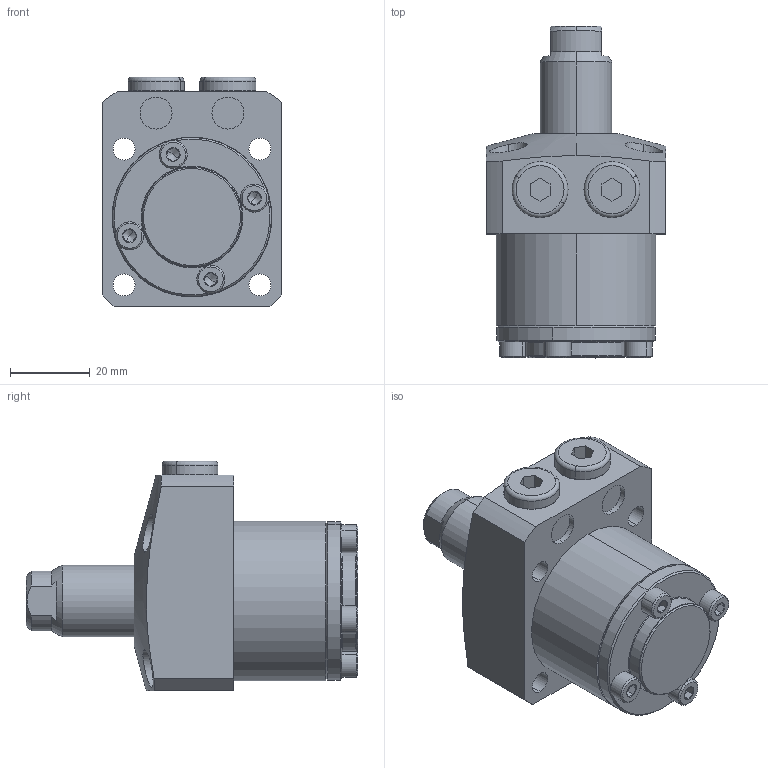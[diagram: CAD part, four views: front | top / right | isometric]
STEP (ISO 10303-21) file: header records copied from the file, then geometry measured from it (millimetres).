
FILE_DESCRIPTION (( 'STEP AP203' ), '1' );
FILE_NAME ('680400-CA-020.step', '2016-11-02T03:17:51', ( 'wxp' ), ( '' ), 'SwSTEP 2.0', 'SolidWorks 2011', '' );
FILE_SCHEMA (( 'CONFIG_CONTROL_DESIGN' ));
Length unit declared in the file: millimetre
Products named in the file (6): 680400-CA-020; 葩璃 68036-15-5^680400-CA-020; 葩璃 680400-15-4^680400-CA-020; 葩璃 680400-15-3^680400-CA-020; 葩璃 680400-20-2^680400-CA-020; 葩璃 680400-20-1^680400-CA-020
Assembly tree (9 placements, depth 2):
  680400-CA-020
    葩璃 680400-15-4^680400-CA-020  x4
    葩璃 680400-15-3^680400-CA-020
    葩璃 680400-20-2^680400-CA-020
    葩璃 680400-20-1^680400-CA-020
    葩璃 68036-15-5^680400-CA-020  x2
Bounding box: 45 x 83 x 57.5 mm (x, y, z)
Volume: 90331.1 mm3; surface area: 23468.3 mm2
Topology: 9 solids, 9 shells, 279 faces, 555 edges, 312 vertices
Faces by surface type: plane 110, cylinder 81, cone 72, torus 16
Entity records: 5453 total; most frequent: CARTESIAN_POINT 1148, DIRECTION 827, ORIENTED_EDGE 674, AXIS2_PLACEMENT_3D 346, EDGE_CURVE 337, VERTEX_POINT 205, EDGE_LOOP 194, CIRCLE 174
